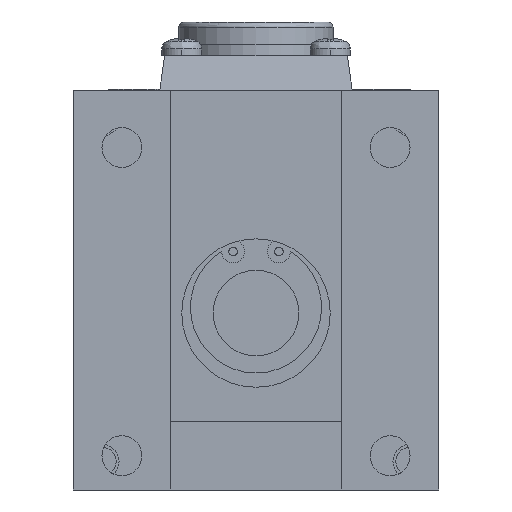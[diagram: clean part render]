
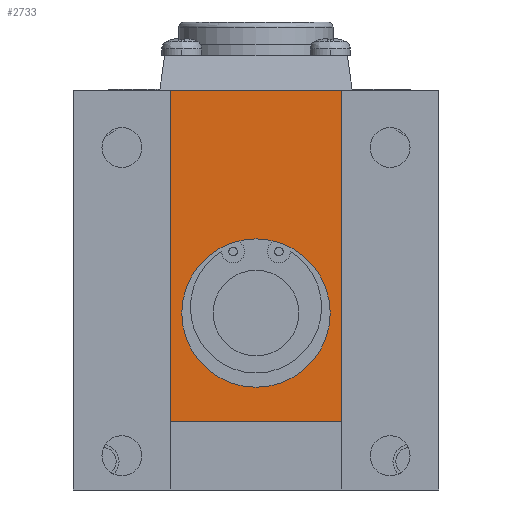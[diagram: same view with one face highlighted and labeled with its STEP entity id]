
A CAD part, front view. The second image highlights one B-rep face of the part: STEP entity #2733.
In plain terms, the highlighted planar face has unit normal (0, -1, 0).
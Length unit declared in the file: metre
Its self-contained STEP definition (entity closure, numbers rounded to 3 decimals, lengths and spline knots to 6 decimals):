
#18 = DIRECTION ( 'NONE',  ( 0., -1., 0. ) ) ;
#569 = EDGE_CURVE ( 'NONE', #10481, #7081, #2971, .T. ) ;
#646 = VERTEX_POINT ( 'NONE', #13379 ) ;
#1510 = ORIENTED_EDGE ( 'NONE', *, *, #9758, .F. ) ;
#1582 = LINE ( 'NONE', #9893, #7102 ) ;
#1639 = ORIENTED_EDGE ( 'NONE', *, *, #6302, .F. ) ;
#2014 = VECTOR ( 'NONE', #11019, 1. ) ;
#2402 = DIRECTION ( 'NONE',  ( 0., 0., 1. ) ) ;
#2668 = AXIS2_PLACEMENT_3D ( 'NONE', #6191, #18, #7271 ) ;
#2733 = ADVANCED_FACE ( 'NONE', ( #12608, #6957 ), #6527, .F. ) ;
#2971 = LINE ( 'NONE', #10079, #8228 ) ;
#4661 = CARTESIAN_POINT ( 'NONE',  ( -0.015, 0., 0.01 ) ) ;
#4766 = VERTEX_POINT ( 'NONE', #7232 ) ;
#4919 = EDGE_LOOP ( 'NONE', ( #12762, #1510, #10486, #6709 ) ) ;
#4966 = VERTEX_POINT ( 'NONE', #12902 ) ;
#5071 = CIRCLE ( 'NONE', #2668, 0.013 ) ;
#5242 = LINE ( 'NONE', #9804, #13389 ) ;
#5482 = VERTEX_POINT ( 'NONE', #9324 ) ;
#5717 = CARTESIAN_POINT ( 'NONE',  ( 0., 0., 0. ) ) ;
#5728 = LINE ( 'NONE', #4661, #2014 ) ;
#6191 = CARTESIAN_POINT ( 'NONE',  ( 0., 0., 0. ) ) ;
#6302 = EDGE_CURVE ( 'NONE', #4966, #4766, #10939, .T. ) ;
#6491 = AXIS2_PLACEMENT_3D ( 'NONE', #5717, #13161, #6783 ) ;
#6527 = PLANE ( 'NONE',  #10004 ) ;
#6542 = EDGE_LOOP ( 'NONE', ( #1639, #13129 ) ) ;
#6709 = ORIENTED_EDGE ( 'NONE', *, *, #9333, .F. ) ;
#6783 = DIRECTION ( 'NONE',  ( 0., 0., -1. ) ) ;
#6957 = FACE_OUTER_BOUND ( 'NONE', #4919, .T. ) ;
#7081 = VERTEX_POINT ( 'NONE', #8541 ) ;
#7102 = VECTOR ( 'NONE', #11939, 1. ) ;
#7232 = CARTESIAN_POINT ( 'NONE',  ( 0., 0., 0.013 ) ) ;
#7271 = DIRECTION ( 'NONE',  ( 0., 0., -1. ) ) ;
#7607 = CARTESIAN_POINT ( 'NONE',  ( -0.015, 0., -0.019 ) ) ;
#8228 = VECTOR ( 'NONE', #12005, 1. ) ;
#8541 = CARTESIAN_POINT ( 'NONE',  ( -0.015, 0., -0.019 ) ) ;
#8692 = DIRECTION ( 'NONE',  ( 0., 1., 0. ) ) ;
#9324 = CARTESIAN_POINT ( 'NONE',  ( -0.015, 0., 0.039 ) ) ;
#9333 = EDGE_CURVE ( 'NONE', #7081, #5482, #5728, .T. ) ;
#9758 = EDGE_CURVE ( 'NONE', #646, #10481, #1582, .T. ) ;
#9804 = CARTESIAN_POINT ( 'NONE',  ( 0., 0., 0.039 ) ) ;
#9893 = CARTESIAN_POINT ( 'NONE',  ( 0.015, 0., 0.01 ) ) ;
#10004 = AXIS2_PLACEMENT_3D ( 'NONE', #7607, #8692, #2402 ) ;
#10079 = CARTESIAN_POINT ( 'NONE',  ( -0.017, 0., -0.019 ) ) ;
#10481 = VERTEX_POINT ( 'NONE', #13111 ) ;
#10486 = ORIENTED_EDGE ( 'NONE', *, *, #10893, .F. ) ;
#10866 = DIRECTION ( 'NONE',  ( 1., 0., 0. ) ) ;
#10893 = EDGE_CURVE ( 'NONE', #5482, #646, #5242, .T. ) ;
#10939 = CIRCLE ( 'NONE', #6491, 0.013 ) ;
#11019 = DIRECTION ( 'NONE',  ( 0., 0., 1. ) ) ;
#11280 = EDGE_CURVE ( 'NONE', #4766, #4966, #5071, .T. ) ;
#11939 = DIRECTION ( 'NONE',  ( 0., 0., -1. ) ) ;
#12005 = DIRECTION ( 'NONE',  ( -1., 0., 0. ) ) ;
#12608 = FACE_BOUND ( 'NONE', #6542, .T. ) ;
#12762 = ORIENTED_EDGE ( 'NONE', *, *, #569, .F. ) ;
#12902 = CARTESIAN_POINT ( 'NONE',  ( 0., 0., -0.013 ) ) ;
#13111 = CARTESIAN_POINT ( 'NONE',  ( 0.015, 0., -0.019 ) ) ;
#13129 = ORIENTED_EDGE ( 'NONE', *, *, #11280, .F. ) ;
#13161 = DIRECTION ( 'NONE',  ( 0., -1., 0. ) ) ;
#13379 = CARTESIAN_POINT ( 'NONE',  ( 0.015, 0., 0.039 ) ) ;
#13389 = VECTOR ( 'NONE', #10866, 1. ) ;
